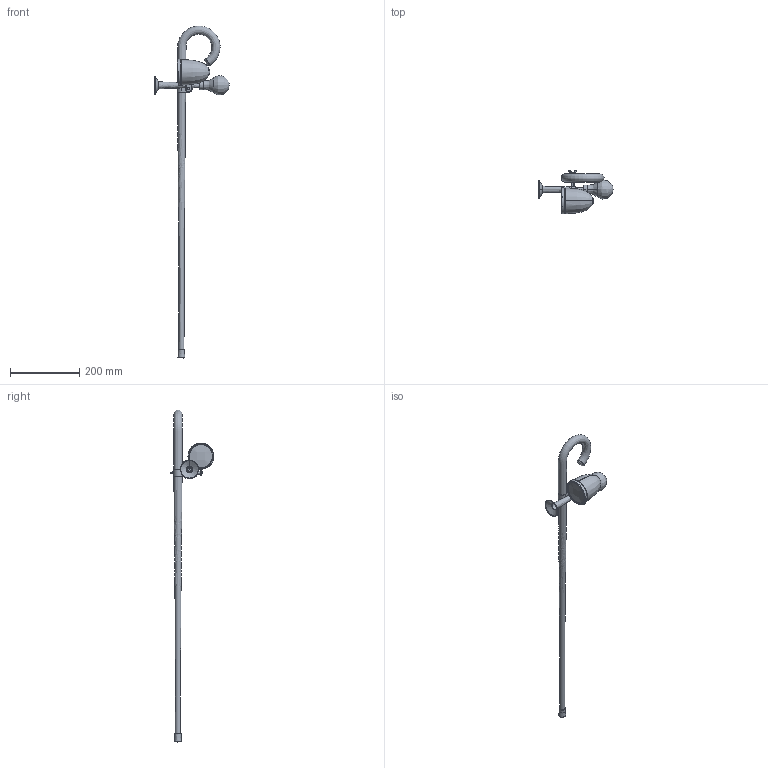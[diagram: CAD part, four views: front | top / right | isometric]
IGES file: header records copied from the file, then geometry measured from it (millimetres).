
Global section: file name: /Users/studiocdb03/Desktop/Enrico/Space/2013/Elliott Erwitt/3d sito/001.igs; native system: Rhinoceros ( Jun 30 2014 ); preprocessor: Trout Lake IGES 012 Jun 30 2014; date: 140716.092151; units: millimetre
Bounding box: 214.89 x 126.52 x 960 mm (x, y, z)
Surface area: 154977.8 mm2 (no closed solid volume)
Topology: 0 solids, 0 shells, 133 faces, 4744 edges, 4707 vertices
Faces by surface type: bspline 133
